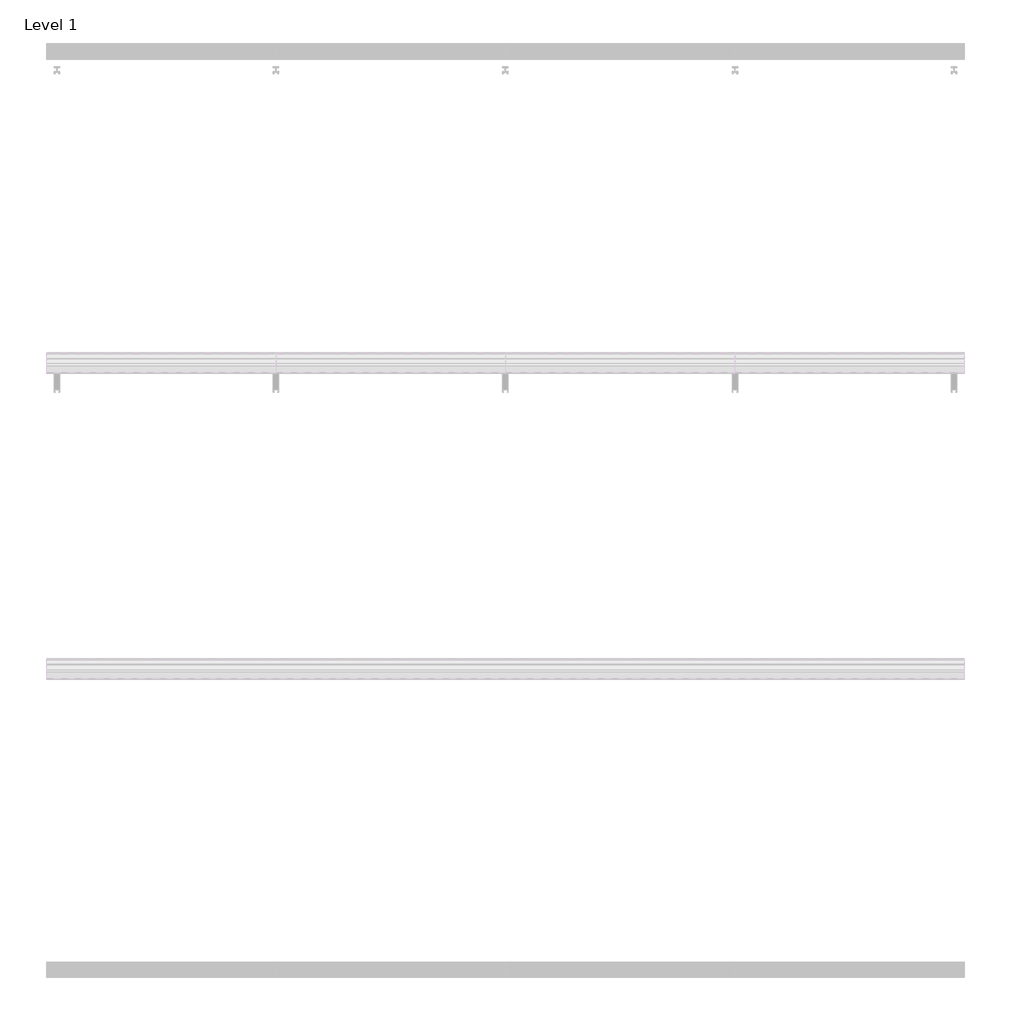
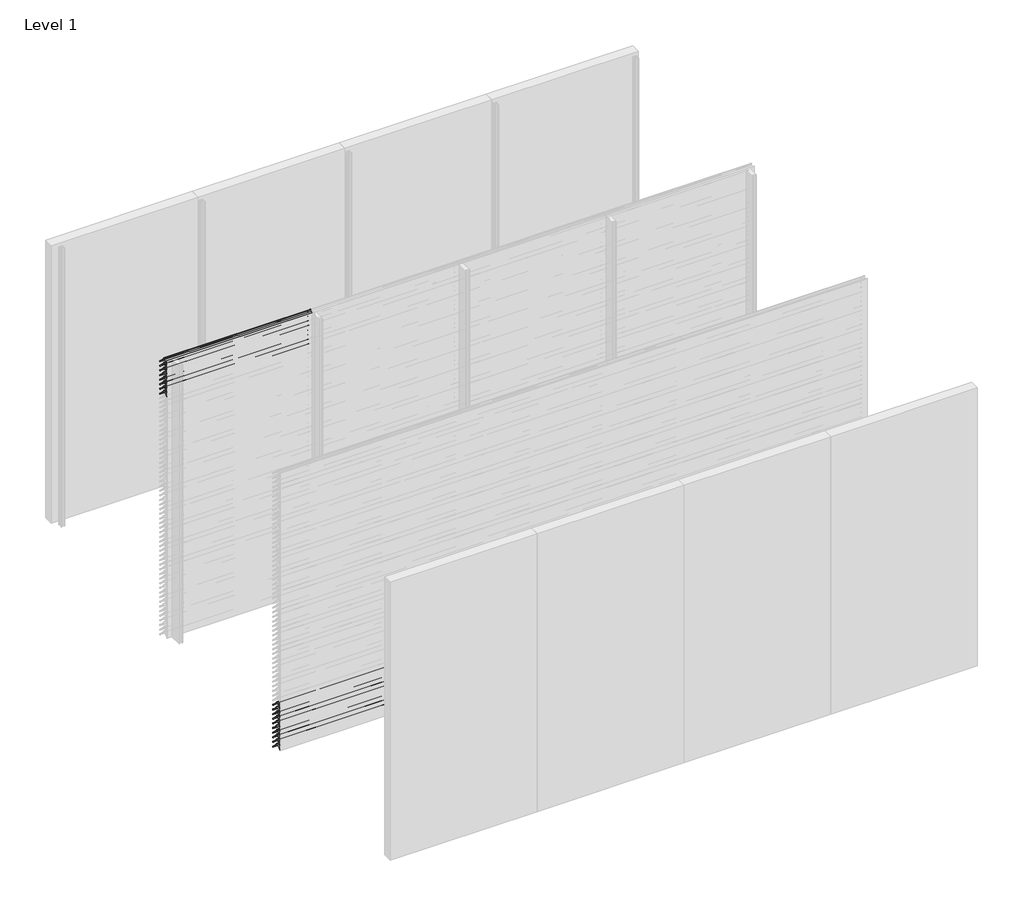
# One storey, part 23 of 173: 18 proxies.
"""IFC4 building model written with IfcOpenShell, lengths in millimetres."""

from ifc_helpers import new_model, si_unit, point, frame, frame_2d, origin, place, context, project, spatial, polyline, circle_curve, trimmed, segment, composite_curve, outline, extrude, element, save

model = new_model("IFC4")

# Units and contexts
model_context = context("Model", 3, world=origin())
ifc_project = project(units=[si_unit("LENGTHUNIT", "METRE", prefix="MILLI")], contexts=[model_context])

# Site, building, storey
site = spatial("IfcSite", under=ifc_project)
building = spatial("IfcBuilding", under=site)
storey = spatial("IfcBuildingStorey", under=building, Name="Level 1", Elevation=0.0)

# Proxies
placement = place(None, origin())
element("IfcBuildingElementProxy", 1, Name="Wall Sweeps", at=placement, inside=storey, context=model_context, shape_type="SweptSolid", body=[
    extrude(outline(composite_curve([segment(polyline([(-47998.0, 2959.1474905), (-47998.0, 2961.6227417)]), True, "CONTINUOUS"), segment(trimmed(circle_curve(frame_2d((-47951.2682172, 2916.2200208)), 65.1557103), [point((-47998.0, 2961.6227417))], [point((-47954.4014323, 2981.3003524))], False, "CARTESIAN"), True, "CONTINUOUS"), segment(polyline([(-47954.4014323, 2981.3003524), (-47934.8315836, 2981.3003524)]), True, "CONTINUOUS"), segment(trimmed(circle_curve(frame_2d((-47732.7329489, 3128.5533172)), 250.0545817), [point((-47934.8315836, 2981.3003524))], [point((-47941.4452143, 2990.8344583))], False, "CARTESIAN"), True, "CONTINUOUS"), segment(trimmed(circle_curve(frame_2d((-47953.2981792, 2985.1737835)), 13.1352966), [point((-47941.4452143, 2990.8344583))], [point((-47953.8171475, 2998.298824))], True, "CARTESIAN"), True, "CONTINUOUS"), segment(polyline([(-47953.8171475, 2998.298824), (-47953.8171475, 3000.0)]), True, "CONTINUOUS"), segment(trimmed(circle_curve(frame_2d((-47953.2981792, 2985.1737835)), 14.8352966), [point((-47953.8171475, 3000.0))], [point((-47939.9637661, 2991.6760487))], False, "CARTESIAN"), True, "CONTINUOUS"), segment(trimmed(circle_curve(frame_2d((-47732.7329489, 3128.5533172)), 248.3545817), [point((-47939.9637661, 2991.6760487))], [point((-47873.8787895, 2924.2059416))], True, "CARTESIAN"), True, "CONTINUOUS"), segment(trimmed(circle_curve(frame_2d((-47883.8147537, 2911.6649442)), 16.0), [point((-47873.8787895, 2924.2059416))], [point((-47867.8648347, 2910.4))], False, "CARTESIAN"), True, "CONTINUOUS"), segment(polyline([(-47867.8648347, 2910.4), (-47869.6712069, 2910.4)]), True, "CONTINUOUS"), segment(trimmed(circle_curve(frame_2d((-47883.8147537, 2911.6649442)), 14.2), [point((-47869.6712069, 2910.4))], [point((-47874.9518628, 2922.7594998))], True, "CARTESIAN"), True, "CONTINUOUS"), segment(trimmed(circle_curve(frame_2d((-47732.7329489, 3128.5533172)), 250.1545817), [point((-47874.9518628, 2922.7594998))], [point((-47933.7064024, 2979.6003524))], False, "CARTESIAN"), True, "CONTINUOUS"), segment(polyline([(-47933.7064024, 2979.6003524), (-47954.3602632, 2979.6003524)]), True, "CONTINUOUS"), segment(trimmed(circle_curve(frame_2d((-47951.2682172, 2916.2200208)), 63.4557103), [point((-47954.3602632, 2979.6003524))], [point((-47998.0, 2959.1474905))], True, "CARTESIAN"), True, "CONTINUOUS")], self_intersect=False)), frame((0.0, 0.0, 0.0), z_axis=(1.0, 0.0, 0.0), x_axis=(0.0, 1.0, 0.0)), (0.0, 0.0, 1.0), 1500.0),
])
element("IfcBuildingElementProxy", 2, Name="Wall Sweeps", at=placement, inside=storey, context=model_context, shape_type="SweptSolid", body=[
    extrude(outline(composite_curve([segment(polyline([(-47998.0, 2909.1474905), (-47998.0, 2911.6227417)]), True, "CONTINUOUS"), segment(trimmed(circle_curve(frame_2d((-47951.2682172, 2866.2200208)), 65.1557103), [point((-47998.0, 2911.6227417))], [point((-47954.4014323, 2931.3003524))], False, "CARTESIAN"), True, "CONTINUOUS"), segment(polyline([(-47954.4014323, 2931.3003524), (-47934.8315836, 2931.3003524)]), True, "CONTINUOUS"), segment(trimmed(circle_curve(frame_2d((-47732.7329489, 3078.5533172)), 250.0545817), [point((-47934.8315836, 2931.3003524))], [point((-47941.4452143, 2940.8344583))], False, "CARTESIAN"), True, "CONTINUOUS"), segment(trimmed(circle_curve(frame_2d((-47953.2981792, 2935.1737835)), 13.1352966), [point((-47941.4452143, 2940.8344583))], [point((-47953.8171475, 2948.298824))], True, "CARTESIAN"), True, "CONTINUOUS"), segment(polyline([(-47953.8171475, 2948.298824), (-47953.8171475, 2950.0)]), True, "CONTINUOUS"), segment(trimmed(circle_curve(frame_2d((-47953.2981792, 2935.1737835)), 14.8352966), [point((-47953.8171475, 2950.0))], [point((-47939.9637661, 2941.6760487))], False, "CARTESIAN"), True, "CONTINUOUS"), segment(trimmed(circle_curve(frame_2d((-47732.7329489, 3078.5533172)), 248.3545817), [point((-47939.9637661, 2941.6760487))], [point((-47873.8787895, 2874.2059416))], True, "CARTESIAN"), True, "CONTINUOUS"), segment(trimmed(circle_curve(frame_2d((-47883.8147537, 2861.6649442)), 16.0), [point((-47873.8787895, 2874.2059416))], [point((-47867.8648347, 2860.4))], False, "CARTESIAN"), True, "CONTINUOUS"), segment(polyline([(-47867.8648347, 2860.4), (-47869.6712069, 2860.4)]), True, "CONTINUOUS"), segment(trimmed(circle_curve(frame_2d((-47883.8147537, 2861.6649442)), 14.2), [point((-47869.6712069, 2860.4))], [point((-47874.9518628, 2872.7594998))], True, "CARTESIAN"), True, "CONTINUOUS"), segment(trimmed(circle_curve(frame_2d((-47732.7329489, 3078.5533172)), 250.1545817), [point((-47874.9518628, 2872.7594998))], [point((-47933.7064024, 2929.6003524))], False, "CARTESIAN"), True, "CONTINUOUS"), segment(polyline([(-47933.7064024, 2929.6003524), (-47954.3602632, 2929.6003524)]), True, "CONTINUOUS"), segment(trimmed(circle_curve(frame_2d((-47951.2682172, 2866.2200208)), 63.4557103), [point((-47954.3602632, 2929.6003524))], [point((-47998.0, 2909.1474905))], True, "CARTESIAN"), True, "CONTINUOUS")], self_intersect=False)), frame((0.0, 0.0, 0.0), z_axis=(1.0, 0.0, 0.0), x_axis=(0.0, 1.0, 0.0)), (0.0, 0.0, 1.0), 1500.0),
])
element("IfcBuildingElementProxy", 3, Name="Wall Sweeps", at=placement, inside=storey, context=model_context, shape_type="SweptSolid", body=[
    extrude(outline(composite_curve([segment(polyline([(-47998.0, 2859.1474905), (-47998.0, 2861.6227417)]), True, "CONTINUOUS"), segment(trimmed(circle_curve(frame_2d((-47951.2682172, 2816.2200208)), 65.1557103), [point((-47998.0, 2861.6227417))], [point((-47954.4014323, 2881.3003524))], False, "CARTESIAN"), True, "CONTINUOUS"), segment(polyline([(-47954.4014323, 2881.3003524), (-47934.8315836, 2881.3003524)]), True, "CONTINUOUS"), segment(trimmed(circle_curve(frame_2d((-47732.7329489, 3028.5533172)), 250.0545817), [point((-47934.8315836, 2881.3003524))], [point((-47941.4452143, 2890.8344583))], False, "CARTESIAN"), True, "CONTINUOUS"), segment(trimmed(circle_curve(frame_2d((-47953.2981792, 2885.1737835)), 13.1352966), [point((-47941.4452143, 2890.8344583))], [point((-47953.8171475, 2898.298824))], True, "CARTESIAN"), True, "CONTINUOUS"), segment(polyline([(-47953.8171475, 2898.298824), (-47953.8171475, 2900.0)]), True, "CONTINUOUS"), segment(trimmed(circle_curve(frame_2d((-47953.2981792, 2885.1737835)), 14.8352966), [point((-47953.8171475, 2900.0))], [point((-47939.9637661, 2891.6760487))], False, "CARTESIAN"), True, "CONTINUOUS"), segment(trimmed(circle_curve(frame_2d((-47732.7329489, 3028.5533172)), 248.3545817), [point((-47939.9637661, 2891.6760487))], [point((-47873.8787895, 2824.2059416))], True, "CARTESIAN"), True, "CONTINUOUS"), segment(trimmed(circle_curve(frame_2d((-47883.8147537, 2811.6649442)), 16.0), [point((-47873.8787895, 2824.2059416))], [point((-47867.8648347, 2810.4))], False, "CARTESIAN"), True, "CONTINUOUS"), segment(polyline([(-47867.8648347, 2810.4), (-47869.6712069, 2810.4)]), True, "CONTINUOUS"), segment(trimmed(circle_curve(frame_2d((-47883.8147537, 2811.6649442)), 14.2), [point((-47869.6712069, 2810.4))], [point((-47874.9518628, 2822.7594998))], True, "CARTESIAN"), True, "CONTINUOUS"), segment(trimmed(circle_curve(frame_2d((-47732.7329489, 3028.5533172)), 250.1545817), [point((-47874.9518628, 2822.7594998))], [point((-47933.7064024, 2879.6003524))], False, "CARTESIAN"), True, "CONTINUOUS"), segment(polyline([(-47933.7064024, 2879.6003524), (-47954.3602632, 2879.6003524)]), True, "CONTINUOUS"), segment(trimmed(circle_curve(frame_2d((-47951.2682172, 2816.2200208)), 63.4557103), [point((-47954.3602632, 2879.6003524))], [point((-47998.0, 2859.1474905))], True, "CARTESIAN"), True, "CONTINUOUS")], self_intersect=False)), frame((0.0, 0.0, 0.0), z_axis=(1.0, 0.0, 0.0), x_axis=(0.0, 1.0, 0.0)), (0.0, 0.0, 1.0), 1500.0),
])
element("IfcBuildingElementProxy", 4, Name="Wall Sweeps", at=placement, inside=storey, context=model_context, shape_type="SweptSolid", body=[
    extrude(outline(composite_curve([segment(polyline([(-47998.0, 2809.1474905), (-47998.0, 2811.6227417)]), True, "CONTINUOUS"), segment(trimmed(circle_curve(frame_2d((-47951.2682172, 2766.2200208)), 65.1557103), [point((-47998.0, 2811.6227417))], [point((-47954.4014323, 2831.3003524))], False, "CARTESIAN"), True, "CONTINUOUS"), segment(polyline([(-47954.4014323, 2831.3003524), (-47934.8315836, 2831.3003524)]), True, "CONTINUOUS"), segment(trimmed(circle_curve(frame_2d((-47732.7329489, 2978.5533172)), 250.0545817), [point((-47934.8315836, 2831.3003524))], [point((-47941.4452143, 2840.8344583))], False, "CARTESIAN"), True, "CONTINUOUS"), segment(trimmed(circle_curve(frame_2d((-47953.2981792, 2835.1737835)), 13.1352966), [point((-47941.4452143, 2840.8344583))], [point((-47953.8171475, 2848.298824))], True, "CARTESIAN"), True, "CONTINUOUS"), segment(polyline([(-47953.8171475, 2848.298824), (-47953.8171475, 2850.0)]), True, "CONTINUOUS"), segment(trimmed(circle_curve(frame_2d((-47953.2981792, 2835.1737835)), 14.8352966), [point((-47953.8171475, 2850.0))], [point((-47939.9637661, 2841.6760487))], False, "CARTESIAN"), True, "CONTINUOUS"), segment(trimmed(circle_curve(frame_2d((-47732.7329489, 2978.5533172)), 248.3545817), [point((-47939.9637661, 2841.6760487))], [point((-47873.8787895, 2774.2059416))], True, "CARTESIAN"), True, "CONTINUOUS"), segment(trimmed(circle_curve(frame_2d((-47883.8147537, 2761.6649442)), 16.0), [point((-47873.8787895, 2774.2059416))], [point((-47867.8648347, 2760.4))], False, "CARTESIAN"), True, "CONTINUOUS"), segment(polyline([(-47867.8648347, 2760.4), (-47869.6712069, 2760.4)]), True, "CONTINUOUS"), segment(trimmed(circle_curve(frame_2d((-47883.8147537, 2761.6649442)), 14.2), [point((-47869.6712069, 2760.4))], [point((-47874.9518628, 2772.7594998))], True, "CARTESIAN"), True, "CONTINUOUS"), segment(trimmed(circle_curve(frame_2d((-47732.7329489, 2978.5533172)), 250.1545817), [point((-47874.9518628, 2772.7594998))], [point((-47933.7064024, 2829.6003524))], False, "CARTESIAN"), True, "CONTINUOUS"), segment(polyline([(-47933.7064024, 2829.6003524), (-47954.3602632, 2829.6003524)]), True, "CONTINUOUS"), segment(trimmed(circle_curve(frame_2d((-47951.2682172, 2766.2200208)), 63.4557103), [point((-47954.3602632, 2829.6003524))], [point((-47998.0, 2809.1474905))], True, "CARTESIAN"), True, "CONTINUOUS")], self_intersect=False)), frame((0.0, 0.0, 0.0), z_axis=(1.0, 0.0, 0.0), x_axis=(0.0, 1.0, 0.0)), (0.0, 0.0, 1.0), 1500.0),
])
element("IfcBuildingElementProxy", 5, Name="Wall Sweeps", at=placement, inside=storey, context=model_context, shape_type="SweptSolid", body=[
    extrude(outline(composite_curve([segment(polyline([(-47998.0, 2759.1474905), (-47998.0, 2761.6227417)]), True, "CONTINUOUS"), segment(trimmed(circle_curve(frame_2d((-47951.2682172, 2716.2200208)), 65.1557103), [point((-47998.0, 2761.6227417))], [point((-47954.4014323, 2781.3003524))], False, "CARTESIAN"), True, "CONTINUOUS"), segment(polyline([(-47954.4014323, 2781.3003524), (-47934.8315836, 2781.3003524)]), True, "CONTINUOUS"), segment(trimmed(circle_curve(frame_2d((-47732.7329489, 2928.5533172)), 250.0545817), [point((-47934.8315836, 2781.3003524))], [point((-47941.4452143, 2790.8344583))], False, "CARTESIAN"), True, "CONTINUOUS"), segment(trimmed(circle_curve(frame_2d((-47953.2981792, 2785.1737835)), 13.1352966), [point((-47941.4452143, 2790.8344583))], [point((-47953.8171475, 2798.298824))], True, "CARTESIAN"), True, "CONTINUOUS"), segment(polyline([(-47953.8171475, 2798.298824), (-47953.8171475, 2800.0)]), True, "CONTINUOUS"), segment(trimmed(circle_curve(frame_2d((-47953.2981792, 2785.1737835)), 14.8352966), [point((-47953.8171475, 2800.0))], [point((-47939.9637661, 2791.6760487))], False, "CARTESIAN"), True, "CONTINUOUS"), segment(trimmed(circle_curve(frame_2d((-47732.7329489, 2928.5533172)), 248.3545817), [point((-47939.9637661, 2791.6760487))], [point((-47873.8787895, 2724.2059416))], True, "CARTESIAN"), True, "CONTINUOUS"), segment(trimmed(circle_curve(frame_2d((-47883.8147537, 2711.6649442)), 16.0), [point((-47873.8787895, 2724.2059416))], [point((-47867.8648347, 2710.4))], False, "CARTESIAN"), True, "CONTINUOUS"), segment(polyline([(-47867.8648347, 2710.4), (-47869.6712069, 2710.4)]), True, "CONTINUOUS"), segment(trimmed(circle_curve(frame_2d((-47883.8147537, 2711.6649442)), 14.2), [point((-47869.6712069, 2710.4))], [point((-47874.9518628, 2722.7594998))], True, "CARTESIAN"), True, "CONTINUOUS"), segment(trimmed(circle_curve(frame_2d((-47732.7329489, 2928.5533172)), 250.1545817), [point((-47874.9518628, 2722.7594998))], [point((-47933.7064024, 2779.6003524))], False, "CARTESIAN"), True, "CONTINUOUS"), segment(polyline([(-47933.7064024, 2779.6003524), (-47954.3602632, 2779.6003524)]), True, "CONTINUOUS"), segment(trimmed(circle_curve(frame_2d((-47951.2682172, 2716.2200208)), 63.4557103), [point((-47954.3602632, 2779.6003524))], [point((-47998.0, 2759.1474905))], True, "CARTESIAN"), True, "CONTINUOUS")], self_intersect=False)), frame((0.0, 0.0, 0.0), z_axis=(1.0, 0.0, 0.0), x_axis=(0.0, 1.0, 0.0)), (0.0, 0.0, 1.0), 1500.0),
])
element("IfcBuildingElementProxy", 6, Name="Wall Sweeps", at=placement, inside=storey, context=model_context, shape_type="SweptSolid", body=[
    extrude(outline(composite_curve([segment(polyline([(-47998.0, 2709.1474905), (-47998.0, 2711.6227417)]), True, "CONTINUOUS"), segment(trimmed(circle_curve(frame_2d((-47951.2682172, 2666.2200208)), 65.1557103), [point((-47998.0, 2711.6227417))], [point((-47954.4014323, 2731.3003524))], False, "CARTESIAN"), True, "CONTINUOUS"), segment(polyline([(-47954.4014323, 2731.3003524), (-47934.8315836, 2731.3003524)]), True, "CONTINUOUS"), segment(trimmed(circle_curve(frame_2d((-47732.7329489, 2878.5533172)), 250.0545817), [point((-47934.8315836, 2731.3003524))], [point((-47941.4452143, 2740.8344583))], False, "CARTESIAN"), True, "CONTINUOUS"), segment(trimmed(circle_curve(frame_2d((-47953.2981792, 2735.1737835)), 13.1352966), [point((-47941.4452143, 2740.8344583))], [point((-47953.8171475, 2748.298824))], True, "CARTESIAN"), True, "CONTINUOUS"), segment(polyline([(-47953.8171475, 2748.298824), (-47953.8171475, 2750.0)]), True, "CONTINUOUS"), segment(trimmed(circle_curve(frame_2d((-47953.2981792, 2735.1737835)), 14.8352966), [point((-47953.8171475, 2750.0))], [point((-47939.9637661, 2741.6760487))], False, "CARTESIAN"), True, "CONTINUOUS"), segment(trimmed(circle_curve(frame_2d((-47732.7329489, 2878.5533172)), 248.3545817), [point((-47939.9637661, 2741.6760487))], [point((-47873.8787895, 2674.2059416))], True, "CARTESIAN"), True, "CONTINUOUS"), segment(trimmed(circle_curve(frame_2d((-47883.8147537, 2661.6649442)), 16.0), [point((-47873.8787895, 2674.2059416))], [point((-47867.8648347, 2660.4))], False, "CARTESIAN"), True, "CONTINUOUS"), segment(polyline([(-47867.8648347, 2660.4), (-47869.6712069, 2660.4)]), True, "CONTINUOUS"), segment(trimmed(circle_curve(frame_2d((-47883.8147537, 2661.6649442)), 14.2), [point((-47869.6712069, 2660.4))], [point((-47874.9518628, 2672.7594998))], True, "CARTESIAN"), True, "CONTINUOUS"), segment(trimmed(circle_curve(frame_2d((-47732.7329489, 2878.5533172)), 250.1545817), [point((-47874.9518628, 2672.7594998))], [point((-47933.7064024, 2729.6003524))], False, "CARTESIAN"), True, "CONTINUOUS"), segment(polyline([(-47933.7064024, 2729.6003524), (-47954.3602632, 2729.6003524)]), True, "CONTINUOUS"), segment(trimmed(circle_curve(frame_2d((-47951.2682172, 2666.2200208)), 63.4557103), [point((-47954.3602632, 2729.6003524))], [point((-47998.0, 2709.1474905))], True, "CARTESIAN"), True, "CONTINUOUS")], self_intersect=False)), frame((0.0, 0.0, 0.0), z_axis=(1.0, 0.0, 0.0), x_axis=(0.0, 1.0, 0.0)), (0.0, 0.0, 1.0), 1500.0),
])
element("IfcBuildingElementProxy", 7, Name="Wall Sweeps", at=placement, inside=storey, context=model_context, shape_type="SweptSolid", body=[
    extrude(outline(composite_curve([segment(polyline([(-47998.0, 2659.1474905), (-47998.0, 2661.6227417)]), True, "CONTINUOUS"), segment(trimmed(circle_curve(frame_2d((-47951.2682172, 2616.2200208)), 65.1557103), [point((-47998.0, 2661.6227417))], [point((-47954.4014323, 2681.3003524))], False, "CARTESIAN"), True, "CONTINUOUS"), segment(polyline([(-47954.4014323, 2681.3003524), (-47934.8315836, 2681.3003524)]), True, "CONTINUOUS"), segment(trimmed(circle_curve(frame_2d((-47732.7329489, 2828.5533172)), 250.0545817), [point((-47934.8315836, 2681.3003524))], [point((-47941.4452143, 2690.8344583))], False, "CARTESIAN"), True, "CONTINUOUS"), segment(trimmed(circle_curve(frame_2d((-47953.2981792, 2685.1737835)), 13.1352966), [point((-47941.4452143, 2690.8344583))], [point((-47953.8171475, 2698.298824))], True, "CARTESIAN"), True, "CONTINUOUS"), segment(polyline([(-47953.8171475, 2698.298824), (-47953.8171475, 2700.0)]), True, "CONTINUOUS"), segment(trimmed(circle_curve(frame_2d((-47953.2981792, 2685.1737835)), 14.8352966), [point((-47953.8171475, 2700.0))], [point((-47939.9637661, 2691.6760487))], False, "CARTESIAN"), True, "CONTINUOUS"), segment(trimmed(circle_curve(frame_2d((-47732.7329489, 2828.5533172)), 248.3545817), [point((-47939.9637661, 2691.6760487))], [point((-47873.8787895, 2624.2059416))], True, "CARTESIAN"), True, "CONTINUOUS"), segment(trimmed(circle_curve(frame_2d((-47883.8147537, 2611.6649442)), 16.0), [point((-47873.8787895, 2624.2059416))], [point((-47867.8648347, 2610.4))], False, "CARTESIAN"), True, "CONTINUOUS"), segment(polyline([(-47867.8648347, 2610.4), (-47869.6712069, 2610.4)]), True, "CONTINUOUS"), segment(trimmed(circle_curve(frame_2d((-47883.8147537, 2611.6649442)), 14.2), [point((-47869.6712069, 2610.4))], [point((-47874.9518628, 2622.7594998))], True, "CARTESIAN"), True, "CONTINUOUS"), segment(trimmed(circle_curve(frame_2d((-47732.7329489, 2828.5533172)), 250.1545817), [point((-47874.9518628, 2622.7594998))], [point((-47933.7064024, 2679.6003524))], False, "CARTESIAN"), True, "CONTINUOUS"), segment(polyline([(-47933.7064024, 2679.6003524), (-47954.3602632, 2679.6003524)]), True, "CONTINUOUS"), segment(trimmed(circle_curve(frame_2d((-47951.2682172, 2616.2200208)), 63.4557103), [point((-47954.3602632, 2679.6003524))], [point((-47998.0, 2659.1474905))], True, "CARTESIAN"), True, "CONTINUOUS")], self_intersect=False)), frame((0.0, 0.0, 0.0), z_axis=(1.0, 0.0, 0.0), x_axis=(0.0, 1.0, 0.0)), (0.0, 0.0, 1.0), 1500.0),
])
element("IfcBuildingElementProxy", 8, Name="Wall Sweeps", at=placement, inside=storey, context=model_context, shape_type="SweptSolid", body=[
    extrude(outline(composite_curve([segment(polyline([(-47998.0, 2609.1474905), (-47998.0, 2611.6227417)]), True, "CONTINUOUS"), segment(trimmed(circle_curve(frame_2d((-47951.2682172, 2566.2200208)), 65.1557103), [point((-47998.0, 2611.6227417))], [point((-47954.4014323, 2631.3003524))], False, "CARTESIAN"), True, "CONTINUOUS"), segment(polyline([(-47954.4014323, 2631.3003524), (-47934.8315836, 2631.3003524)]), True, "CONTINUOUS"), segment(trimmed(circle_curve(frame_2d((-47732.7329489, 2778.5533172)), 250.0545817), [point((-47934.8315836, 2631.3003524))], [point((-47941.4452143, 2640.8344583))], False, "CARTESIAN"), True, "CONTINUOUS"), segment(trimmed(circle_curve(frame_2d((-47953.2981792, 2635.1737835)), 13.1352966), [point((-47941.4452143, 2640.8344583))], [point((-47953.8171475, 2648.298824))], True, "CARTESIAN"), True, "CONTINUOUS"), segment(polyline([(-47953.8171475, 2648.298824), (-47953.8171475, 2650.0)]), True, "CONTINUOUS"), segment(trimmed(circle_curve(frame_2d((-47953.2981792, 2635.1737835)), 14.8352966), [point((-47953.8171475, 2650.0))], [point((-47939.9637661, 2641.6760487))], False, "CARTESIAN"), True, "CONTINUOUS"), segment(trimmed(circle_curve(frame_2d((-47732.7329489, 2778.5533172)), 248.3545817), [point((-47939.9637661, 2641.6760487))], [point((-47873.8787895, 2574.2059416))], True, "CARTESIAN"), True, "CONTINUOUS"), segment(trimmed(circle_curve(frame_2d((-47883.8147537, 2561.6649442)), 16.0), [point((-47873.8787895, 2574.2059416))], [point((-47867.8648347, 2560.4))], False, "CARTESIAN"), True, "CONTINUOUS"), segment(polyline([(-47867.8648347, 2560.4), (-47869.6712069, 2560.4)]), True, "CONTINUOUS"), segment(trimmed(circle_curve(frame_2d((-47883.8147537, 2561.6649442)), 14.2), [point((-47869.6712069, 2560.4))], [point((-47874.9518628, 2572.7594998))], True, "CARTESIAN"), True, "CONTINUOUS"), segment(trimmed(circle_curve(frame_2d((-47732.7329489, 2778.5533172)), 250.1545817), [point((-47874.9518628, 2572.7594998))], [point((-47933.7064024, 2629.6003524))], False, "CARTESIAN"), True, "CONTINUOUS"), segment(polyline([(-47933.7064024, 2629.6003524), (-47954.3602632, 2629.6003524)]), True, "CONTINUOUS"), segment(trimmed(circle_curve(frame_2d((-47951.2682172, 2566.2200208)), 63.4557103), [point((-47954.3602632, 2629.6003524))], [point((-47998.0, 2609.1474905))], True, "CARTESIAN"), True, "CONTINUOUS")], self_intersect=False)), frame((0.0, 0.0, 0.0), z_axis=(1.0, 0.0, 0.0), x_axis=(0.0, 1.0, 0.0)), (0.0, 0.0, 1.0), 1500.0),
])
element("IfcBuildingElementProxy", 9, Name="Wall Sweeps", at=placement, inside=storey, context=model_context, shape_type="SweptSolid", body=[
    extrude(outline(composite_curve([segment(polyline([(-49998.0, 459.1474905), (-49998.0, 461.6227417)]), True, "CONTINUOUS"), segment(trimmed(circle_curve(frame_2d((-49951.2682172, 416.2200208)), 65.1557103), [point((-49998.0, 461.6227417))], [point((-49954.4014323, 481.3003524))], False, "CARTESIAN"), True, "CONTINUOUS"), segment(polyline([(-49954.4014323, 481.3003524), (-49934.8315836, 481.3003524)]), True, "CONTINUOUS"), segment(trimmed(circle_curve(frame_2d((-49732.7329489, 628.5533172)), 250.0545817), [point((-49934.8315836, 481.3003524))], [point((-49941.4452143, 490.8344583))], False, "CARTESIAN"), True, "CONTINUOUS"), segment(trimmed(circle_curve(frame_2d((-49953.2981792, 485.1737835)), 13.1352966), [point((-49941.4452143, 490.8344583))], [point((-49953.8171475, 498.298824))], True, "CARTESIAN"), True, "CONTINUOUS"), segment(polyline([(-49953.8171475, 498.298824), (-49953.8171475, 500.0)]), True, "CONTINUOUS"), segment(trimmed(circle_curve(frame_2d((-49953.2981792, 485.1737835)), 14.8352966), [point((-49953.8171475, 500.0))], [point((-49939.9637661, 491.6760487))], False, "CARTESIAN"), True, "CONTINUOUS"), segment(trimmed(circle_curve(frame_2d((-49732.7329489, 628.5533172)), 248.3545817), [point((-49939.9637661, 491.6760487))], [point((-49873.8787895, 424.2059416))], True, "CARTESIAN"), True, "CONTINUOUS"), segment(trimmed(circle_curve(frame_2d((-49883.8147537, 411.6649442)), 16.0), [point((-49873.8787895, 424.2059416))], [point((-49867.8648347, 410.4))], False, "CARTESIAN"), True, "CONTINUOUS"), segment(polyline([(-49867.8648347, 410.4), (-49869.6712069, 410.4)]), True, "CONTINUOUS"), segment(trimmed(circle_curve(frame_2d((-49883.8147537, 411.6649442)), 14.2), [point((-49869.6712069, 410.4))], [point((-49874.9518628, 422.7594998))], True, "CARTESIAN"), True, "CONTINUOUS"), segment(trimmed(circle_curve(frame_2d((-49732.7329489, 628.5533172)), 250.1545817), [point((-49874.9518628, 422.7594998))], [point((-49933.7064024, 479.6003524))], False, "CARTESIAN"), True, "CONTINUOUS"), segment(polyline([(-49933.7064024, 479.6003524), (-49954.3602632, 479.6003524)]), True, "CONTINUOUS"), segment(trimmed(circle_curve(frame_2d((-49951.2682172, 416.2200208)), 63.4557103), [point((-49954.3602632, 479.6003524))], [point((-49998.0, 459.1474905))], True, "CARTESIAN"), True, "CONTINUOUS")], self_intersect=False)), frame((0.0, 0.0, 0.0), z_axis=(1.0, 0.0, 0.0), x_axis=(0.0, 1.0, 0.0)), (0.0, 0.0, 1.0), 6000.0),
])
element("IfcBuildingElementProxy", 10, Name="Wall Sweeps", at=placement, inside=storey, context=model_context, shape_type="SweptSolid", body=[
    extrude(outline(composite_curve([segment(polyline([(-49998.0, 409.1474905), (-49998.0, 411.6227417)]), True, "CONTINUOUS"), segment(trimmed(circle_curve(frame_2d((-49951.2682172, 366.2200208)), 65.1557103), [point((-49998.0, 411.6227417))], [point((-49954.4014323, 431.3003524))], False, "CARTESIAN"), True, "CONTINUOUS"), segment(polyline([(-49954.4014323, 431.3003524), (-49934.8315836, 431.3003524)]), True, "CONTINUOUS"), segment(trimmed(circle_curve(frame_2d((-49732.7329489, 578.5533172)), 250.0545817), [point((-49934.8315836, 431.3003524))], [point((-49941.4452143, 440.8344583))], False, "CARTESIAN"), True, "CONTINUOUS"), segment(trimmed(circle_curve(frame_2d((-49953.2981792, 435.1737835)), 13.1352966), [point((-49941.4452143, 440.8344583))], [point((-49953.8171475, 448.298824))], True, "CARTESIAN"), True, "CONTINUOUS"), segment(polyline([(-49953.8171475, 448.298824), (-49953.8171475, 450.0)]), True, "CONTINUOUS"), segment(trimmed(circle_curve(frame_2d((-49953.2981792, 435.1737835)), 14.8352966), [point((-49953.8171475, 450.0))], [point((-49939.9637661, 441.6760487))], False, "CARTESIAN"), True, "CONTINUOUS"), segment(trimmed(circle_curve(frame_2d((-49732.7329489, 578.5533172)), 248.3545817), [point((-49939.9637661, 441.6760487))], [point((-49873.8787895, 374.2059416))], True, "CARTESIAN"), True, "CONTINUOUS"), segment(trimmed(circle_curve(frame_2d((-49883.8147537, 361.6649442)), 16.0), [point((-49873.8787895, 374.2059416))], [point((-49867.8648347, 360.4))], False, "CARTESIAN"), True, "CONTINUOUS"), segment(polyline([(-49867.8648347, 360.4), (-49869.6712069, 360.4)]), True, "CONTINUOUS"), segment(trimmed(circle_curve(frame_2d((-49883.8147537, 361.6649442)), 14.2), [point((-49869.6712069, 360.4))], [point((-49874.9518628, 372.7594998))], True, "CARTESIAN"), True, "CONTINUOUS"), segment(trimmed(circle_curve(frame_2d((-49732.7329489, 578.5533172)), 250.1545817), [point((-49874.9518628, 372.7594998))], [point((-49933.7064024, 429.6003524))], False, "CARTESIAN"), True, "CONTINUOUS"), segment(polyline([(-49933.7064024, 429.6003524), (-49954.3602632, 429.6003524)]), True, "CONTINUOUS"), segment(trimmed(circle_curve(frame_2d((-49951.2682172, 366.2200208)), 63.4557103), [point((-49954.3602632, 429.6003524))], [point((-49998.0, 409.1474905))], True, "CARTESIAN"), True, "CONTINUOUS")], self_intersect=False)), frame((0.0, 0.0, 0.0), z_axis=(1.0, 0.0, 0.0), x_axis=(0.0, 1.0, 0.0)), (0.0, 0.0, 1.0), 6000.0),
])
element("IfcBuildingElementProxy", 11, Name="Wall Sweeps", at=placement, inside=storey, context=model_context, shape_type="SweptSolid", body=[
    extrude(outline(composite_curve([segment(polyline([(-49998.0, 359.1474905), (-49998.0, 361.6227417)]), True, "CONTINUOUS"), segment(trimmed(circle_curve(frame_2d((-49951.2682172, 316.2200208)), 65.1557103), [point((-49998.0, 361.6227417))], [point((-49954.4014323, 381.3003524))], False, "CARTESIAN"), True, "CONTINUOUS"), segment(polyline([(-49954.4014323, 381.3003524), (-49934.8315836, 381.3003524)]), True, "CONTINUOUS"), segment(trimmed(circle_curve(frame_2d((-49732.7329489, 528.5533172)), 250.0545817), [point((-49934.8315836, 381.3003524))], [point((-49941.4452143, 390.8344583))], False, "CARTESIAN"), True, "CONTINUOUS"), segment(trimmed(circle_curve(frame_2d((-49953.2981792, 385.1737835)), 13.1352966), [point((-49941.4452143, 390.8344583))], [point((-49953.8171475, 398.298824))], True, "CARTESIAN"), True, "CONTINUOUS"), segment(polyline([(-49953.8171475, 398.298824), (-49953.8171475, 400.0)]), True, "CONTINUOUS"), segment(trimmed(circle_curve(frame_2d((-49953.2981792, 385.1737835)), 14.8352966), [point((-49953.8171475, 400.0))], [point((-49939.9637661, 391.6760487))], False, "CARTESIAN"), True, "CONTINUOUS"), segment(trimmed(circle_curve(frame_2d((-49732.7329489, 528.5533172)), 248.3545817), [point((-49939.9637661, 391.6760487))], [point((-49873.8787895, 324.2059416))], True, "CARTESIAN"), True, "CONTINUOUS"), segment(trimmed(circle_curve(frame_2d((-49883.8147537, 311.6649442)), 16.0), [point((-49873.8787895, 324.2059416))], [point((-49867.8648347, 310.4))], False, "CARTESIAN"), True, "CONTINUOUS"), segment(polyline([(-49867.8648347, 310.4), (-49869.6712069, 310.4)]), True, "CONTINUOUS"), segment(trimmed(circle_curve(frame_2d((-49883.8147537, 311.6649442)), 14.2), [point((-49869.6712069, 310.4))], [point((-49874.9518628, 322.7594998))], True, "CARTESIAN"), True, "CONTINUOUS"), segment(trimmed(circle_curve(frame_2d((-49732.7329489, 528.5533172)), 250.1545817), [point((-49874.9518628, 322.7594998))], [point((-49933.7064024, 379.6003524))], False, "CARTESIAN"), True, "CONTINUOUS"), segment(polyline([(-49933.7064024, 379.6003524), (-49954.3602632, 379.6003524)]), True, "CONTINUOUS"), segment(trimmed(circle_curve(frame_2d((-49951.2682172, 316.2200208)), 63.4557103), [point((-49954.3602632, 379.6003524))], [point((-49998.0, 359.1474905))], True, "CARTESIAN"), True, "CONTINUOUS")], self_intersect=False)), frame((0.0, 0.0, 0.0), z_axis=(1.0, 0.0, 0.0), x_axis=(0.0, 1.0, 0.0)), (0.0, 0.0, 1.0), 6000.0),
])
element("IfcBuildingElementProxy", 12, Name="Wall Sweeps", at=placement, inside=storey, context=model_context, shape_type="SweptSolid", body=[
    extrude(outline(composite_curve([segment(polyline([(-49998.0, 309.1474905), (-49998.0, 311.6227417)]), True, "CONTINUOUS"), segment(trimmed(circle_curve(frame_2d((-49951.2682172, 266.2200208)), 65.1557103), [point((-49998.0, 311.6227417))], [point((-49954.4014323, 331.3003524))], False, "CARTESIAN"), True, "CONTINUOUS"), segment(polyline([(-49954.4014323, 331.3003524), (-49934.8315836, 331.3003524)]), True, "CONTINUOUS"), segment(trimmed(circle_curve(frame_2d((-49732.7329489, 478.5533172)), 250.0545817), [point((-49934.8315836, 331.3003524))], [point((-49941.4452143, 340.8344583))], False, "CARTESIAN"), True, "CONTINUOUS"), segment(trimmed(circle_curve(frame_2d((-49953.2981792, 335.1737835)), 13.1352966), [point((-49941.4452143, 340.8344583))], [point((-49953.8171475, 348.298824))], True, "CARTESIAN"), True, "CONTINUOUS"), segment(polyline([(-49953.8171475, 348.298824), (-49953.8171475, 350.0)]), True, "CONTINUOUS"), segment(trimmed(circle_curve(frame_2d((-49953.2981792, 335.1737835)), 14.8352966), [point((-49953.8171475, 350.0))], [point((-49939.9637661, 341.6760487))], False, "CARTESIAN"), True, "CONTINUOUS"), segment(trimmed(circle_curve(frame_2d((-49732.7329489, 478.5533172)), 248.3545817), [point((-49939.9637661, 341.6760487))], [point((-49873.8787895, 274.2059416))], True, "CARTESIAN"), True, "CONTINUOUS"), segment(trimmed(circle_curve(frame_2d((-49883.8147537, 261.6649442)), 16.0), [point((-49873.8787895, 274.2059416))], [point((-49867.8648347, 260.4))], False, "CARTESIAN"), True, "CONTINUOUS"), segment(polyline([(-49867.8648347, 260.4), (-49869.6712069, 260.4)]), True, "CONTINUOUS"), segment(trimmed(circle_curve(frame_2d((-49883.8147537, 261.6649442)), 14.2), [point((-49869.6712069, 260.4))], [point((-49874.9518628, 272.7594998))], True, "CARTESIAN"), True, "CONTINUOUS"), segment(trimmed(circle_curve(frame_2d((-49732.7329489, 478.5533172)), 250.1545817), [point((-49874.9518628, 272.7594998))], [point((-49933.7064024, 329.6003524))], False, "CARTESIAN"), True, "CONTINUOUS"), segment(polyline([(-49933.7064024, 329.6003524), (-49954.3602632, 329.6003524)]), True, "CONTINUOUS"), segment(trimmed(circle_curve(frame_2d((-49951.2682172, 266.2200208)), 63.4557103), [point((-49954.3602632, 329.6003524))], [point((-49998.0, 309.1474905))], True, "CARTESIAN"), True, "CONTINUOUS")], self_intersect=False)), frame((0.0, 0.0, 0.0), z_axis=(1.0, 0.0, 0.0), x_axis=(0.0, 1.0, 0.0)), (0.0, 0.0, 1.0), 6000.0),
])
element("IfcBuildingElementProxy", 13, Name="Wall Sweeps", at=placement, inside=storey, context=model_context, shape_type="SweptSolid", body=[
    extrude(outline(composite_curve([segment(polyline([(-49998.0, 259.1474905), (-49998.0, 261.6227417)]), True, "CONTINUOUS"), segment(trimmed(circle_curve(frame_2d((-49951.2682172, 216.2200208)), 65.1557103), [point((-49998.0, 261.6227417))], [point((-49954.4014323, 281.3003524))], False, "CARTESIAN"), True, "CONTINUOUS"), segment(polyline([(-49954.4014323, 281.3003524), (-49934.8315836, 281.3003524)]), True, "CONTINUOUS"), segment(trimmed(circle_curve(frame_2d((-49732.7329489, 428.5533172)), 250.0545817), [point((-49934.8315836, 281.3003524))], [point((-49941.4452143, 290.8344583))], False, "CARTESIAN"), True, "CONTINUOUS"), segment(trimmed(circle_curve(frame_2d((-49953.2981792, 285.1737835)), 13.1352966), [point((-49941.4452143, 290.8344583))], [point((-49953.8171475, 298.298824))], True, "CARTESIAN"), True, "CONTINUOUS"), segment(polyline([(-49953.8171475, 298.298824), (-49953.8171475, 300.0)]), True, "CONTINUOUS"), segment(trimmed(circle_curve(frame_2d((-49953.2981792, 285.1737835)), 14.8352966), [point((-49953.8171475, 300.0))], [point((-49939.9637661, 291.6760487))], False, "CARTESIAN"), True, "CONTINUOUS"), segment(trimmed(circle_curve(frame_2d((-49732.7329489, 428.5533172)), 248.3545817), [point((-49939.9637661, 291.6760487))], [point((-49873.8787895, 224.2059416))], True, "CARTESIAN"), True, "CONTINUOUS"), segment(trimmed(circle_curve(frame_2d((-49883.8147537, 211.6649442)), 16.0), [point((-49873.8787895, 224.2059416))], [point((-49867.8648347, 210.4))], False, "CARTESIAN"), True, "CONTINUOUS"), segment(polyline([(-49867.8648347, 210.4), (-49869.6712069, 210.4)]), True, "CONTINUOUS"), segment(trimmed(circle_curve(frame_2d((-49883.8147537, 211.6649442)), 14.2), [point((-49869.6712069, 210.4))], [point((-49874.9518628, 222.7594998))], True, "CARTESIAN"), True, "CONTINUOUS"), segment(trimmed(circle_curve(frame_2d((-49732.7329489, 428.5533172)), 250.1545817), [point((-49874.9518628, 222.7594998))], [point((-49933.7064024, 279.6003524))], False, "CARTESIAN"), True, "CONTINUOUS"), segment(polyline([(-49933.7064024, 279.6003524), (-49954.3602632, 279.6003524)]), True, "CONTINUOUS"), segment(trimmed(circle_curve(frame_2d((-49951.2682172, 216.2200208)), 63.4557103), [point((-49954.3602632, 279.6003524))], [point((-49998.0, 259.1474905))], True, "CARTESIAN"), True, "CONTINUOUS")], self_intersect=False)), frame((0.0, 0.0, 0.0), z_axis=(1.0, 0.0, 0.0), x_axis=(0.0, 1.0, 0.0)), (0.0, 0.0, 1.0), 6000.0),
])
element("IfcBuildingElementProxy", 14, Name="Wall Sweeps", at=placement, inside=storey, context=model_context, shape_type="SweptSolid", body=[
    extrude(outline(composite_curve([segment(polyline([(-49998.0, 209.1474905), (-49998.0, 211.6227417)]), True, "CONTINUOUS"), segment(trimmed(circle_curve(frame_2d((-49951.2682172, 166.2200208)), 65.1557103), [point((-49998.0, 211.6227417))], [point((-49954.4014323, 231.3003524))], False, "CARTESIAN"), True, "CONTINUOUS"), segment(polyline([(-49954.4014323, 231.3003524), (-49934.8315836, 231.3003524)]), True, "CONTINUOUS"), segment(trimmed(circle_curve(frame_2d((-49732.7329489, 378.5533172)), 250.0545817), [point((-49934.8315836, 231.3003524))], [point((-49941.4452143, 240.8344583))], False, "CARTESIAN"), True, "CONTINUOUS"), segment(trimmed(circle_curve(frame_2d((-49953.2981792, 235.1737835)), 13.1352966), [point((-49941.4452143, 240.8344583))], [point((-49953.8171475, 248.298824))], True, "CARTESIAN"), True, "CONTINUOUS"), segment(polyline([(-49953.8171475, 248.298824), (-49953.8171475, 250.0)]), True, "CONTINUOUS"), segment(trimmed(circle_curve(frame_2d((-49953.2981792, 235.1737835)), 14.8352966), [point((-49953.8171475, 250.0))], [point((-49939.9637661, 241.6760487))], False, "CARTESIAN"), True, "CONTINUOUS"), segment(trimmed(circle_curve(frame_2d((-49732.7329489, 378.5533172)), 248.3545817), [point((-49939.9637661, 241.6760487))], [point((-49873.8787895, 174.2059416))], True, "CARTESIAN"), True, "CONTINUOUS"), segment(trimmed(circle_curve(frame_2d((-49883.8147537, 161.6649442)), 16.0), [point((-49873.8787895, 174.2059416))], [point((-49867.8648347, 160.4))], False, "CARTESIAN"), True, "CONTINUOUS"), segment(polyline([(-49867.8648347, 160.4), (-49869.6712069, 160.4)]), True, "CONTINUOUS"), segment(trimmed(circle_curve(frame_2d((-49883.8147537, 161.6649442)), 14.2), [point((-49869.6712069, 160.4))], [point((-49874.9518628, 172.7594998))], True, "CARTESIAN"), True, "CONTINUOUS"), segment(trimmed(circle_curve(frame_2d((-49732.7329489, 378.5533172)), 250.1545817), [point((-49874.9518628, 172.7594998))], [point((-49933.7064024, 229.6003524))], False, "CARTESIAN"), True, "CONTINUOUS"), segment(polyline([(-49933.7064024, 229.6003524), (-49954.3602632, 229.6003524)]), True, "CONTINUOUS"), segment(trimmed(circle_curve(frame_2d((-49951.2682172, 166.2200208)), 63.4557103), [point((-49954.3602632, 229.6003524))], [point((-49998.0, 209.1474905))], True, "CARTESIAN"), True, "CONTINUOUS")], self_intersect=False)), frame((0.0, 0.0, 0.0), z_axis=(1.0, 0.0, 0.0), x_axis=(0.0, 1.0, 0.0)), (0.0, 0.0, 1.0), 6000.0),
])
element("IfcBuildingElementProxy", 15, Name="Wall Sweeps", at=placement, inside=storey, context=model_context, shape_type="SweptSolid", body=[
    extrude(outline(composite_curve([segment(polyline([(-49998.0, 159.1474905), (-49998.0, 161.6227417)]), True, "CONTINUOUS"), segment(trimmed(circle_curve(frame_2d((-49951.2682172, 116.2200208)), 65.1557103), [point((-49998.0, 161.6227417))], [point((-49954.4014323, 181.3003524))], False, "CARTESIAN"), True, "CONTINUOUS"), segment(polyline([(-49954.4014323, 181.3003524), (-49934.8315836, 181.3003524)]), True, "CONTINUOUS"), segment(trimmed(circle_curve(frame_2d((-49732.7329489, 328.5533172)), 250.0545817), [point((-49934.8315836, 181.3003524))], [point((-49941.4452143, 190.8344583))], False, "CARTESIAN"), True, "CONTINUOUS"), segment(trimmed(circle_curve(frame_2d((-49953.2981792, 185.1737835)), 13.1352966), [point((-49941.4452143, 190.8344583))], [point((-49953.8171475, 198.298824))], True, "CARTESIAN"), True, "CONTINUOUS"), segment(polyline([(-49953.8171475, 198.298824), (-49953.8171475, 200.0)]), True, "CONTINUOUS"), segment(trimmed(circle_curve(frame_2d((-49953.2981792, 185.1737835)), 14.8352966), [point((-49953.8171475, 200.0))], [point((-49939.9637661, 191.6760487))], False, "CARTESIAN"), True, "CONTINUOUS"), segment(trimmed(circle_curve(frame_2d((-49732.7329489, 328.5533172)), 248.3545817), [point((-49939.9637661, 191.6760487))], [point((-49873.8787895, 124.2059416))], True, "CARTESIAN"), True, "CONTINUOUS"), segment(trimmed(circle_curve(frame_2d((-49883.8147537, 111.6649442)), 16.0), [point((-49873.8787895, 124.2059416))], [point((-49867.8648347, 110.4))], False, "CARTESIAN"), True, "CONTINUOUS"), segment(polyline([(-49867.8648347, 110.4), (-49869.6712069, 110.4)]), True, "CONTINUOUS"), segment(trimmed(circle_curve(frame_2d((-49883.8147537, 111.6649442)), 14.2), [point((-49869.6712069, 110.4))], [point((-49874.9518628, 122.7594998))], True, "CARTESIAN"), True, "CONTINUOUS"), segment(trimmed(circle_curve(frame_2d((-49732.7329489, 328.5533172)), 250.1545817), [point((-49874.9518628, 122.7594998))], [point((-49933.7064024, 179.6003524))], False, "CARTESIAN"), True, "CONTINUOUS"), segment(polyline([(-49933.7064024, 179.6003524), (-49954.3602632, 179.6003524)]), True, "CONTINUOUS"), segment(trimmed(circle_curve(frame_2d((-49951.2682172, 116.2200208)), 63.4557103), [point((-49954.3602632, 179.6003524))], [point((-49998.0, 159.1474905))], True, "CARTESIAN"), True, "CONTINUOUS")], self_intersect=False)), frame((0.0, 0.0, 0.0), z_axis=(1.0, 0.0, 0.0), x_axis=(0.0, 1.0, 0.0)), (0.0, 0.0, 1.0), 6000.0),
])
element("IfcBuildingElementProxy", 16, Name="Wall Sweeps", at=placement, inside=storey, context=model_context, shape_type="SweptSolid", body=[
    extrude(outline(composite_curve([segment(polyline([(-49998.0, 109.1474905), (-49998.0, 111.6227417)]), True, "CONTINUOUS"), segment(trimmed(circle_curve(frame_2d((-49951.2682172, 66.2200208)), 65.1557103), [point((-49998.0, 111.6227417))], [point((-49954.4014323, 131.3003524))], False, "CARTESIAN"), True, "CONTINUOUS"), segment(polyline([(-49954.4014323, 131.3003524), (-49934.8315836, 131.3003524)]), True, "CONTINUOUS"), segment(trimmed(circle_curve(frame_2d((-49732.7329489, 278.5533172)), 250.0545817), [point((-49934.8315836, 131.3003524))], [point((-49941.4452143, 140.8344583))], False, "CARTESIAN"), True, "CONTINUOUS"), segment(trimmed(circle_curve(frame_2d((-49953.2981792, 135.1737835)), 13.1352966), [point((-49941.4452143, 140.8344583))], [point((-49953.8171475, 148.298824))], True, "CARTESIAN"), True, "CONTINUOUS"), segment(polyline([(-49953.8171475, 148.298824), (-49953.8171475, 150.0)]), True, "CONTINUOUS"), segment(trimmed(circle_curve(frame_2d((-49953.2981792, 135.1737835)), 14.8352966), [point((-49953.8171475, 150.0))], [point((-49939.9637661, 141.6760487))], False, "CARTESIAN"), True, "CONTINUOUS"), segment(trimmed(circle_curve(frame_2d((-49732.7329489, 278.5533172)), 248.3545817), [point((-49939.9637661, 141.6760487))], [point((-49873.8787895, 74.2059416))], True, "CARTESIAN"), True, "CONTINUOUS"), segment(trimmed(circle_curve(frame_2d((-49883.8147537, 61.6649442)), 16.0), [point((-49873.8787895, 74.2059416))], [point((-49867.8648347, 60.4))], False, "CARTESIAN"), True, "CONTINUOUS"), segment(polyline([(-49867.8648347, 60.4), (-49869.6712069, 60.4)]), True, "CONTINUOUS"), segment(trimmed(circle_curve(frame_2d((-49883.8147537, 61.6649442)), 14.2), [point((-49869.6712069, 60.4))], [point((-49874.9518628, 72.7594998))], True, "CARTESIAN"), True, "CONTINUOUS"), segment(trimmed(circle_curve(frame_2d((-49732.7329489, 278.5533172)), 250.1545817), [point((-49874.9518628, 72.7594998))], [point((-49933.7064024, 129.6003524))], False, "CARTESIAN"), True, "CONTINUOUS"), segment(polyline([(-49933.7064024, 129.6003524), (-49954.3602632, 129.6003524)]), True, "CONTINUOUS"), segment(trimmed(circle_curve(frame_2d((-49951.2682172, 66.2200208)), 63.4557103), [point((-49954.3602632, 129.6003524))], [point((-49998.0, 109.1474905))], True, "CARTESIAN"), True, "CONTINUOUS")], self_intersect=False)), frame((0.0, 0.0, 0.0), z_axis=(1.0, 0.0, 0.0), x_axis=(0.0, 1.0, 0.0)), (0.0, 0.0, 1.0), 6000.0),
])
element("IfcBuildingElementProxy", 17, Name="Wall Sweeps", at=placement, inside=storey, context=model_context, shape_type="SweptSolid", body=[
    extrude(outline(composite_curve([segment(polyline([(-49998.0, 59.1474905), (-49998.0, 61.6227417)]), True, "CONTINUOUS"), segment(trimmed(circle_curve(frame_2d((-49951.2682172, 16.2200208)), 65.1557103), [point((-49998.0, 61.6227417))], [point((-49954.4014323, 81.3003524))], False, "CARTESIAN"), True, "CONTINUOUS"), segment(polyline([(-49954.4014323, 81.3003524), (-49934.8315836, 81.3003524)]), True, "CONTINUOUS"), segment(trimmed(circle_curve(frame_2d((-49732.7329489, 228.5533172)), 250.0545817), [point((-49934.8315836, 81.3003524))], [point((-49941.4452143, 90.8344583))], False, "CARTESIAN"), True, "CONTINUOUS"), segment(trimmed(circle_curve(frame_2d((-49953.2981792, 85.1737835)), 13.1352966), [point((-49941.4452143, 90.8344583))], [point((-49953.8171475, 98.298824))], True, "CARTESIAN"), True, "CONTINUOUS"), segment(polyline([(-49953.8171475, 98.298824), (-49953.8171475, 100.0)]), True, "CONTINUOUS"), segment(trimmed(circle_curve(frame_2d((-49953.2981792, 85.1737835)), 14.8352966), [point((-49953.8171475, 100.0))], [point((-49939.9637661, 91.6760487))], False, "CARTESIAN"), True, "CONTINUOUS"), segment(trimmed(circle_curve(frame_2d((-49732.7329489, 228.5533172)), 248.3545817), [point((-49939.9637661, 91.6760487))], [point((-49873.8787895, 24.2059416))], True, "CARTESIAN"), True, "CONTINUOUS"), segment(trimmed(circle_curve(frame_2d((-49883.8147537, 11.6649442)), 16.0), [point((-49873.8787895, 24.2059416))], [point((-49867.8648347, 10.4))], False, "CARTESIAN"), True, "CONTINUOUS"), segment(polyline([(-49867.8648347, 10.4), (-49869.6712069, 10.4)]), True, "CONTINUOUS"), segment(trimmed(circle_curve(frame_2d((-49883.8147537, 11.6649442)), 14.2), [point((-49869.6712069, 10.4))], [point((-49874.9518628, 22.7594998))], True, "CARTESIAN"), True, "CONTINUOUS"), segment(trimmed(circle_curve(frame_2d((-49732.7329489, 228.5533172)), 250.1545817), [point((-49874.9518628, 22.7594998))], [point((-49933.7064024, 79.6003524))], False, "CARTESIAN"), True, "CONTINUOUS"), segment(polyline([(-49933.7064024, 79.6003524), (-49954.3602632, 79.6003524)]), True, "CONTINUOUS"), segment(trimmed(circle_curve(frame_2d((-49951.2682172, 16.2200208)), 63.4557103), [point((-49954.3602632, 79.6003524))], [point((-49998.0, 59.1474905))], True, "CARTESIAN"), True, "CONTINUOUS")], self_intersect=False)), frame((0.0, 0.0, 0.0), z_axis=(1.0, 0.0, 0.0), x_axis=(0.0, 1.0, 0.0)), (0.0, 0.0, 1.0), 6000.0),
])
element("IfcBuildingElementProxy", 18, Name="Wall Sweeps", at=placement, inside=storey, context=model_context, shape_type="SweptSolid", body=[
    extrude(outline(composite_curve([segment(polyline([(-49998.0, 9.1474905), (-49998.0, 11.6227417)]), True, "CONTINUOUS"), segment(trimmed(circle_curve(frame_2d((-49951.2682172, -33.7799792)), 65.1557103), [point((-49998.0, 11.6227417))], [point((-49954.4014323, 31.3003524))], False, "CARTESIAN"), True, "CONTINUOUS"), segment(polyline([(-49954.4014323, 31.3003524), (-49934.8315836, 31.3003524)]), True, "CONTINUOUS"), segment(trimmed(circle_curve(frame_2d((-49732.7329489, 178.5533172)), 250.0545817), [point((-49934.8315836, 31.3003524))], [point((-49941.4452143, 40.8344583))], False, "CARTESIAN"), True, "CONTINUOUS"), segment(trimmed(circle_curve(frame_2d((-49953.2981792, 35.1737835)), 13.1352966), [point((-49941.4452143, 40.8344583))], [point((-49953.8171475, 48.298824))], True, "CARTESIAN"), True, "CONTINUOUS"), segment(polyline([(-49953.8171475, 48.298824), (-49953.8171475, 50.0)]), True, "CONTINUOUS"), segment(trimmed(circle_curve(frame_2d((-49953.2981792, 35.1737835)), 14.8352966), [point((-49953.8171475, 50.0))], [point((-49939.9637661, 41.6760487))], False, "CARTESIAN"), True, "CONTINUOUS"), segment(trimmed(circle_curve(frame_2d((-49732.7329489, 178.5533172)), 248.3545817), [point((-49939.9637661, 41.6760487))], [point((-49873.8787895, -25.7940584))], True, "CARTESIAN"), True, "CONTINUOUS"), segment(trimmed(circle_curve(frame_2d((-49883.8147537, -38.3350558)), 16.0), [point((-49873.8787895, -25.7940584))], [point((-49867.8648347, -39.6))], False, "CARTESIAN"), True, "CONTINUOUS"), segment(polyline([(-49867.8648347, -39.6), (-49869.6712069, -39.6)]), True, "CONTINUOUS"), segment(trimmed(circle_curve(frame_2d((-49883.8147537, -38.3350558)), 14.2), [point((-49869.6712069, -39.6))], [point((-49874.9518628, -27.2405002))], True, "CARTESIAN"), True, "CONTINUOUS"), segment(trimmed(circle_curve(frame_2d((-49732.7329489, 178.5533172)), 250.1545817), [point((-49874.9518628, -27.2405002))], [point((-49933.7064024, 29.6003524))], False, "CARTESIAN"), True, "CONTINUOUS"), segment(polyline([(-49933.7064024, 29.6003524), (-49954.3602632, 29.6003524)]), True, "CONTINUOUS"), segment(trimmed(circle_curve(frame_2d((-49951.2682172, -33.7799792)), 63.4557103), [point((-49954.3602632, 29.6003524))], [point((-49998.0, 9.1474905))], True, "CARTESIAN"), True, "CONTINUOUS")], self_intersect=False)), frame((0.0, 0.0, 0.0), z_axis=(1.0, 0.0, 0.0), x_axis=(0.0, 1.0, 0.0)), (0.0, 0.0, 1.0), 6000.0),
])

save(model, "model.ifc")
